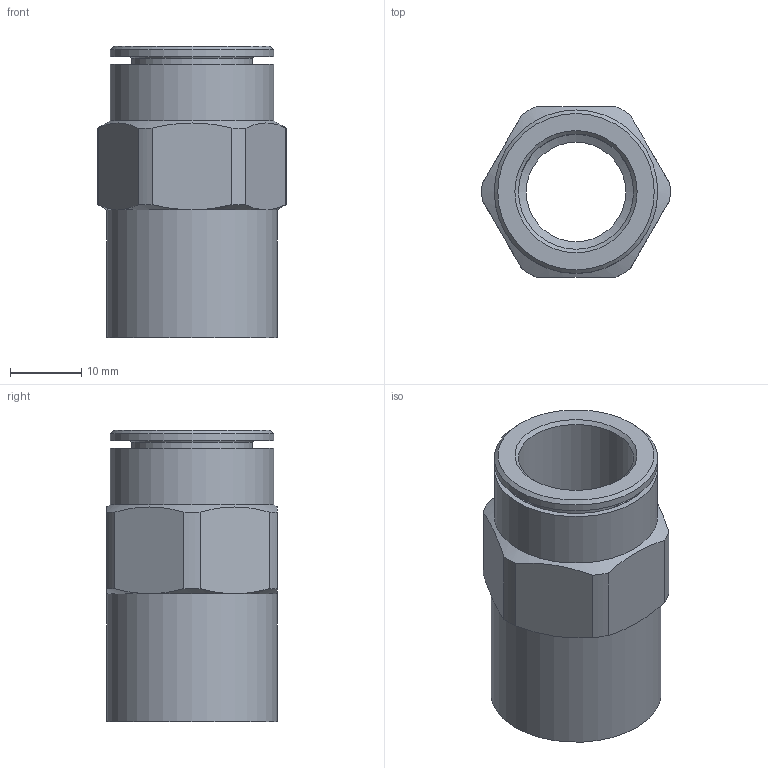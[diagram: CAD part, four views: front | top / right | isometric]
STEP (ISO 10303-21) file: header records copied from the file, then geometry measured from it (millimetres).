
FILE_DESCRIPTION(/* description */ (''),/* implementation_level */ '2;1');
FILE_NAME(/* name */ 'V200215_IPSO02_16_G12_23.06.16A',/* time_stamp */ '2016-06-23T12:10:16+02:00',/* author */ (''),/* organization */ (''),/* preprocessor_version */ 'ST-DEVELOPER v16.5',/* originating_system */ 'HiCAD 2016 2101.0 Build 254',/* authorisation */ '');
FILE_SCHEMA (('AUTOMOTIVE_DESIGN { 1 0 10303 214 1 1 1 1 }'));
Length unit declared in the file: millimetre
Products named in the file (3): Root; DR16; 001_000X
Assembly tree (2 placements, depth 2):
  Root
    DR16
    001_000X
Bounding box: 26.49 x 24 x 41 mm (x, y, z)
Volume: 7605.2 mm3; surface area: 7718.3 mm2
Topology: 2 solids, 2 shells, 50 faces, 105 edges, 65 vertices
Faces by surface type: cylinder 18, plane 16, cone 13, torus 3
Full cylindrical faces by diameter (mm): 14 x1, 16.2 x2, 17 x1, 17.2 x1, 18.631 x1, 19 x1, 20.2 x1, 20.4 x1, 23 x2, 24 x1
Entity records: 2067 total; most frequent: DIRECTION 254, CARTESIAN_POINT 194, PRESENTATION_STYLE_ASSIGNMENT 160, COLOUR_RGB 159, DRAUGHTING_PRE_DEFINED_CURVE_FONT 158, CURVE_STYLE 158, OVER_RIDING_STYLED_ITEM 158, ORIENTED_EDGE 158
